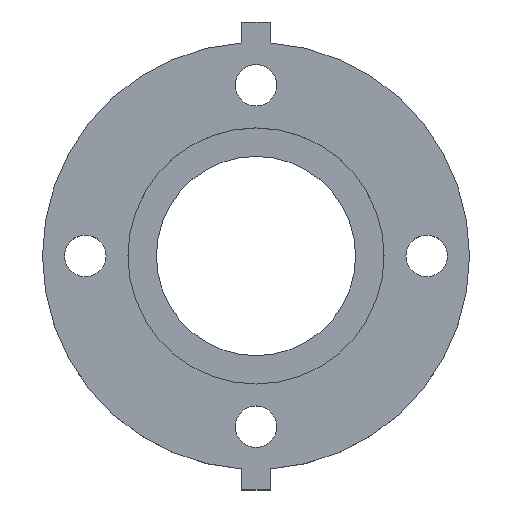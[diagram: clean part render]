
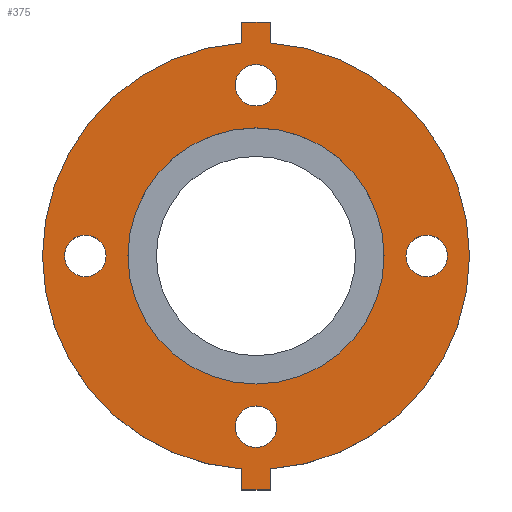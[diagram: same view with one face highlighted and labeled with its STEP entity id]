
A CAD part, top view. The second image highlights one B-rep face of the part: STEP entity #375.
In plain terms, the highlighted planar face has unit normal (0, 0, 1).
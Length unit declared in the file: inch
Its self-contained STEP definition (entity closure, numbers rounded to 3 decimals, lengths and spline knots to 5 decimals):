
#59=FACE_BOUND('',#120,.T.);
#60=FACE_BOUND('',#121,.T.);
#61=FACE_BOUND('',#122,.T.);
#62=FACE_BOUND('',#123,.T.);
#63=FACE_BOUND('',#124,.T.);
#71=CIRCLE('',#408,3.75);
#72=CIRCLE('',#413,0.365);
#73=CIRCLE('',#415,0.365);
#74=CIRCLE('',#417,0.365);
#75=CIRCLE('',#419,0.365);
#78=CIRCLE('',#425,2.25);
#79=CIRCLE('',#427,3.75);
#96=FACE_OUTER_BOUND('',#119,.T.);
#119=EDGE_LOOP('',(#318,#319,#320,#321,#322,#323,#324,#325));
#120=EDGE_LOOP('',(#326));
#121=EDGE_LOOP('',(#327));
#122=EDGE_LOOP('',(#328));
#123=EDGE_LOOP('',(#329));
#124=EDGE_LOOP('',(#330));
#126=LINE('',#568,#152);
#132=LINE('',#580,#158);
#134=LINE('',#583,#160);
#139=LINE('',#610,#165);
#143=LINE('',#617,#169);
#144=LINE('',#619,#170);
#152=VECTOR('',#447,0.3937);
#158=VECTOR('',#455,0.3937);
#160=VECTOR('',#459,0.3937);
#165=VECTOR('',#486,0.3937);
#169=VECTOR('',#492,0.3937);
#170=VECTOR('',#495,0.3937);
#177=VERTEX_POINT('',#564);
#179=VERTEX_POINT('',#567);
#182=VERTEX_POINT('',#574);
#184=VERTEX_POINT('',#578);
#194=VERTEX_POINT('',#605);
#195=VERTEX_POINT('',#609);
#196=VERTEX_POINT('',#613);
#197=VERTEX_POINT('',#615);
#198=VERTEX_POINT('',#621);
#199=VERTEX_POINT('',#625);
#200=VERTEX_POINT('',#629);
#201=VERTEX_POINT('',#633);
#204=VERTEX_POINT('',#644);
#206=EDGE_CURVE('',#177,#179,#126,.T.);
#212=EDGE_CURVE('',#184,#182,#132,.T.);
#214=EDGE_CURVE('',#179,#184,#134,.T.);
#225=EDGE_CURVE('',#194,#182,#71,.T.);
#227=EDGE_CURVE('',#195,#194,#139,.T.);
#231=EDGE_CURVE('',#196,#197,#143,.T.);
#232=EDGE_CURVE('',#197,#195,#144,.T.);
#234=EDGE_CURVE('',#198,#198,#72,.T.);
#236=EDGE_CURVE('',#199,#199,#73,.T.);
#238=EDGE_CURVE('',#200,#200,#74,.T.);
#240=EDGE_CURVE('',#201,#201,#75,.T.);
#245=EDGE_CURVE('',#204,#204,#78,.T.);
#246=EDGE_CURVE('',#177,#196,#79,.T.);
#318=ORIENTED_EDGE('',*,*,#246,.T.);
#319=ORIENTED_EDGE('',*,*,#231,.T.);
#320=ORIENTED_EDGE('',*,*,#232,.T.);
#321=ORIENTED_EDGE('',*,*,#227,.T.);
#322=ORIENTED_EDGE('',*,*,#225,.T.);
#323=ORIENTED_EDGE('',*,*,#212,.F.);
#324=ORIENTED_EDGE('',*,*,#214,.F.);
#325=ORIENTED_EDGE('',*,*,#206,.F.);
#326=ORIENTED_EDGE('',*,*,#234,.T.);
#327=ORIENTED_EDGE('',*,*,#236,.T.);
#328=ORIENTED_EDGE('',*,*,#238,.T.);
#329=ORIENTED_EDGE('',*,*,#240,.T.);
#330=ORIENTED_EDGE('',*,*,#245,.T.);
#339=PLANE('',#428);
#375=ADVANCED_FACE('',(#96,#59,#60,#61,#62,#63),#339,.T.);
#408=AXIS2_PLACEMENT_3D('',#606,#481,#482);
#413=AXIS2_PLACEMENT_3D('',#623,#499,#500);
#415=AXIS2_PLACEMENT_3D('',#627,#504,#505);
#417=AXIS2_PLACEMENT_3D('',#631,#509,#510);
#419=AXIS2_PLACEMENT_3D('',#635,#514,#515);
#425=AXIS2_PLACEMENT_3D('',#646,#528,#529);
#427=AXIS2_PLACEMENT_3D('',#648,#532,#533);
#428=AXIS2_PLACEMENT_3D('',#649,#534,#535);
#447=DIRECTION('',(0.,-1.,0.));
#455=DIRECTION('',(0.,1.,0.));
#459=DIRECTION('',(-1.,0.,0.));
#481=DIRECTION('center_axis',(0.,0.,1.));
#482=DIRECTION('ref_axis',(-1.,0.,0.));
#486=DIRECTION('',(0.,-1.,0.));
#492=DIRECTION('',(0.,1.,0.));
#495=DIRECTION('',(-1.,0.,0.));
#499=DIRECTION('center_axis',(0.,0.,-1.));
#500=DIRECTION('ref_axis',(0.,1.,0.));
#504=DIRECTION('center_axis',(0.,0.,-1.));
#505=DIRECTION('ref_axis',(1.,0.,0.));
#509=DIRECTION('center_axis',(0.,0.,-1.));
#510=DIRECTION('ref_axis',(0.,-1.,0.));
#514=DIRECTION('center_axis',(0.,0.,-1.));
#515=DIRECTION('ref_axis',(-1.,0.,0.));
#528=DIRECTION('center_axis',(0.,0.,-1.));
#529=DIRECTION('ref_axis',(-1.,0.,0.));
#532=DIRECTION('center_axis',(0.,0.,1.));
#533=DIRECTION('ref_axis',(-1.,0.,0.));
#534=DIRECTION('center_axis',(0.,0.,1.));
#535=DIRECTION('ref_axis',(1.,0.,0.));
#564=CARTESIAN_POINT('',(0.25,-3.74166,0.94));
#567=CARTESIAN_POINT('',(0.25,-4.11,0.94));
#568=CARTESIAN_POINT('',(0.25,-4.11,0.94));
#574=CARTESIAN_POINT('',(-0.25,-3.74166,0.94));
#578=CARTESIAN_POINT('',(-0.25,-4.11,0.94));
#580=CARTESIAN_POINT('',(-0.25,-3.465,0.94));
#583=CARTESIAN_POINT('',(-0.25,-4.11,0.94));
#605=CARTESIAN_POINT('',(-0.25,3.74166,0.94));
#606=CARTESIAN_POINT('Origin',(0.,0.,0.94));
#609=CARTESIAN_POINT('',(-0.25,4.11,0.94));
#610=CARTESIAN_POINT('',(-0.25,3.465,0.94));
#613=CARTESIAN_POINT('',(0.25,3.74166,0.94));
#615=CARTESIAN_POINT('',(0.25,4.11,0.94));
#617=CARTESIAN_POINT('',(0.25,4.11,0.94));
#619=CARTESIAN_POINT('',(-0.25,4.11,0.94));
#621=CARTESIAN_POINT('',(3.,-0.365,0.94));
#623=CARTESIAN_POINT('Origin',(3.,0.,0.94));
#625=CARTESIAN_POINT('',(-0.365,-3.,0.94));
#627=CARTESIAN_POINT('Origin',(0.,-3.,0.94));
#629=CARTESIAN_POINT('',(-3.,0.365,0.94));
#631=CARTESIAN_POINT('Origin',(-3.,0.,0.94));
#633=CARTESIAN_POINT('',(0.365,3.,0.94));
#635=CARTESIAN_POINT('Origin',(0.,3.,0.94));
#644=CARTESIAN_POINT('',(2.25,0.,0.94));
#646=CARTESIAN_POINT('Origin',(0.,0.,0.94));
#648=CARTESIAN_POINT('Origin',(0.,0.,0.94));
#649=CARTESIAN_POINT('Origin',(0.,0.,0.94));
